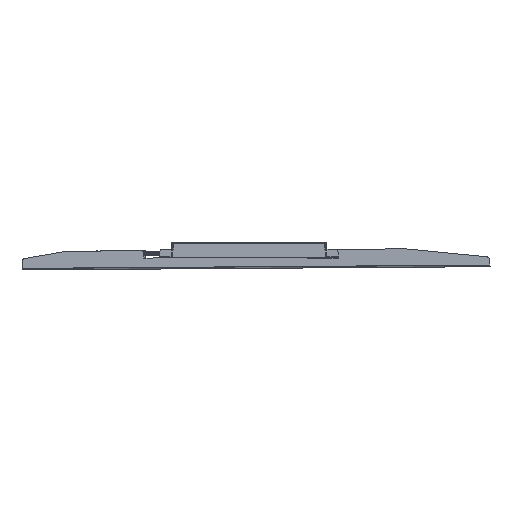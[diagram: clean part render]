
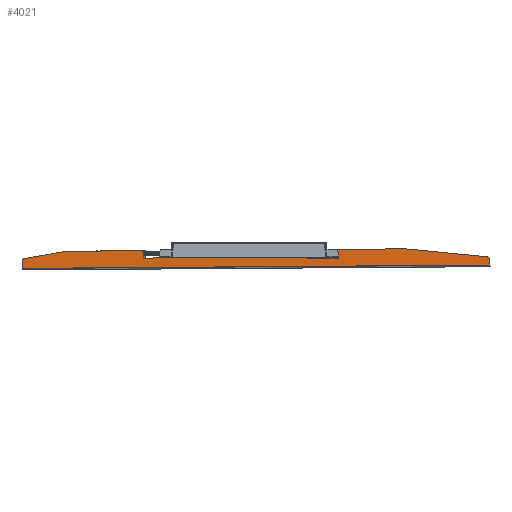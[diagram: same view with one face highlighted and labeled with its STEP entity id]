
A CAD part, left-side view. The second image highlights one B-rep face of the part: STEP entity #4021.
In plain terms, the highlighted planar face has unit normal (-1, 0, 0).
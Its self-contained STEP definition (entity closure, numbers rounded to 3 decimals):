
#1253=DIRECTION('',(0.,1.,0.));
#1254=VECTOR('',#1253,168.476);
#1255=CARTESIAN_POINT('',(1053.71,-81.796,-17.5));
#1256=LINE('',#1255,#1254);
#1265=CARTESIAN_POINT('',(1053.714,86.68,-20.5));
#1266=DIRECTION('',(1.,0.,0.));
#1267=DIRECTION('',(0.,1.,0.));
#1268=AXIS2_PLACEMENT_3D('',#1265,#1266,#1267);
#1270=CARTESIAN_POINT('',(1053.71,-81.796,-20.5));
#1271=DIRECTION('',(1.,0.,0.));
#1272=DIRECTION('',(0.,0.,1.));
#1273=AXIS2_PLACEMENT_3D('',#1270,#1271,#1272);
#1275=DIRECTION('',(0.,-0.707,-0.707));
#1276=VECTOR('',#1275,9.864);
#1277=CARTESIAN_POINT('',(1053.71,-83.917,
-18.379));
#1278=LINE('',#1277,#1276);
#1279=CARTESIAN_POINT('',(1053.71,-91.245,-25.));
#1280=DIRECTION('',(-1.,0.,0.));
#1281=DIRECTION('',(0.,0.707,-0.707));
#1282=AXIS2_PLACEMENT_3D('',#1279,#1280,#1281);
#1284=DIRECTION('',(0.,0.985,0.174));
#1285=VECTOR('',#1284,12.96);
#1286=CARTESIAN_POINT('',(1053.708,-131.92,
-23.096));
#1287=LINE('',#1286,#1285);
#1288=CARTESIAN_POINT('',(1053.709,-119.33,
-19.861));
#1289=DIRECTION('',(1.,0.,0.));
#1290=DIRECTION('',(0.,0.174,-0.985));
#1291=AXIS2_PLACEMENT_3D('',#1288,#1289,#1290);
#1293=DIRECTION('',(0.,0.,1.));
#1294=VECTOR('',#1293,5.861);
#1295=CARTESIAN_POINT('',(1053.709,-118.33,
-19.861));
#1296=LINE('',#1295,#1294);
#1297=CARTESIAN_POINT('',(1053.709,-118.83,-14.));
#1298=DIRECTION('',(1.,0.,0.));
#1299=DIRECTION('',(0.,1.,0.));
#1300=AXIS2_PLACEMENT_3D('',#1297,#1298,#1299);
#1302=DIRECTION('',(0.,-1.,0.));
#1303=VECTOR('',#1302,104.555);
#1304=CARTESIAN_POINT('',(1053.709,-118.83,-13.5));
#1305=LINE('',#1304,#1303);
#1306=CARTESIAN_POINT('',(1053.706,-223.385,-18.5));
#1307=DIRECTION('',(1.,0.,0.));
#1308=DIRECTION('',(0.,0.,1.));
#1309=AXIS2_PLACEMENT_3D('',#1306,#1307,#1308);
#1311=DIRECTION('',(0.,-0.995,-0.105));
#1312=VECTOR('',#1311,110.037);
#1313=CARTESIAN_POINT('',(1053.706,-223.908,
-13.527));
#1314=LINE('',#1313,#1312);
#1315=CARTESIAN_POINT('',(1053.703,-332.82,
-30.002));
#1316=DIRECTION('',(1.,0.,0.));
#1317=DIRECTION('',(0.,-0.105,0.995));
#1318=AXIS2_PLACEMENT_3D('',#1315,#1316,#1317);
#1320=DIRECTION('',(0.,0.,-1.));
#1321=VECTOR('',#1320,6.298);
#1322=CARTESIAN_POINT('',(1053.703,-337.82,
-30.002));
#1323=LINE('',#1322,#1321);
#1324=DIRECTION('',(0.,0.,1.));
#1325=VECTOR('',#1324,8.564);
#1326=CARTESIAN_POINT('',(1053.72,297.18,-36.3));
#1327=LINE('',#1326,#1325);
#1328=CARTESIAN_POINT('',(1053.72,292.18,-27.736));
#1329=DIRECTION('',(1.,0.,0.));
#1330=DIRECTION('',(0.,1.,0.));
#1331=AXIS2_PLACEMENT_3D('',#1328,#1329,#1330);
#1333=DIRECTION('',(0.,-0.986,0.164));
#1334=VECTOR('',#1333,56.592);
#1335=CARTESIAN_POINT('',(1053.72,293.002,-22.804));
#1336=LINE('',#1335,#1334);
#1337=DIRECTION('',(0.,-1.,0.));
#1338=VECTOR('',#1337,100.5);
#1339=CARTESIAN_POINT('',(1053.718,237.18,-13.5));
#1340=LINE('',#1339,#1338);
#1341=CARTESIAN_POINT('',(1053.716,136.68,-18.5));
#1342=DIRECTION('',(1.,0.,0.));
#1343=DIRECTION('',(0.,0.,1.));
#1344=AXIS2_PLACEMENT_3D('',#1341,#1342,#1343);
#1346=DIRECTION('',(0.,0.,-1.));
#1347=VECTOR('',#1346,5.);
#1348=CARTESIAN_POINT('',(1053.715,131.68,-18.5));
#1349=LINE('',#1348,#1347);
#1350=DIRECTION('',(0.,-1.,0.));
#1351=VECTOR('',#1350,42.);
#1352=CARTESIAN_POINT('',(1053.715,131.68,-23.5));
#1353=LINE('',#1352,#1351);
#1354=DIRECTION('',(0.,0.,1.));
#1355=VECTOR('',#1354,3.);
#1356=CARTESIAN_POINT('',(1053.714,89.68,-23.5));
#1357=LINE('',#1356,#1355);
#1374=DIRECTION('',(0.,1.,0.));
#1375=VECTOR('',#1374,40.674);
#1376=CARTESIAN_POINT('',(1053.708,-131.92,-25.5));
#1377=LINE('',#1376,#1375);
#1386=DIRECTION('',(0.,0.,-1.));
#1387=VECTOR('',#1386,2.404);
#1388=CARTESIAN_POINT('',(1053.708,-131.92,
-23.096));
#1389=LINE('',#1388,#1387);
#1426=DIRECTION('',(0.,-1.,0.));
#1427=VECTOR('',#1426,635.);
#1428=CARTESIAN_POINT('',(1053.72,297.18,-36.3));
#1429=LINE('',#1428,#1427);
#1934=CARTESIAN_POINT('',(1053.703,-337.82,
-36.3));
#1935=VERTEX_POINT('',#1934);
#1936=CARTESIAN_POINT('',(1053.703,-337.82,
-30.002));
#1937=VERTEX_POINT('',#1936);
#2146=CARTESIAN_POINT('',(1053.72,297.18,-27.736));
#2147=VERTEX_POINT('',#2146);
#2148=CARTESIAN_POINT('',(1053.72,297.18,-36.3));
#2149=VERTEX_POINT('',#2148);
#2300=CARTESIAN_POINT('',(1053.714,86.68,-17.5));
#2301=VERTEX_POINT('',#2300);
#2302=CARTESIAN_POINT('',(1053.714,89.68,-20.5));
#2303=VERTEX_POINT('',#2302);
#2304=CARTESIAN_POINT('',(1053.71,-81.796,-17.5));
#2305=VERTEX_POINT('',#2304);
#2306=CARTESIAN_POINT('',(1053.71,-83.917,
-18.379));
#2307=VERTEX_POINT('',#2306);
#2308=CARTESIAN_POINT('',(1053.71,-90.892,
-25.354));
#2309=VERTEX_POINT('',#2308);
#2310=CARTESIAN_POINT('',(1053.71,-91.245,-25.5));
#2311=VERTEX_POINT('',#2310);
#2312=CARTESIAN_POINT('',(1053.708,-131.92,-25.5));
#2313=VERTEX_POINT('',#2312);
#2314=CARTESIAN_POINT('',(1053.708,-131.92,
-23.096));
#2315=VERTEX_POINT('',#2314);
#2316=CARTESIAN_POINT('',(1053.709,-119.156,
-20.846));
#2317=VERTEX_POINT('',#2316);
#2318=CARTESIAN_POINT('',(1053.709,-118.33,
-19.861));
#2319=VERTEX_POINT('',#2318);
#2320=CARTESIAN_POINT('',(1053.709,-118.33,
-14.));
#2321=VERTEX_POINT('',#2320);
#2322=CARTESIAN_POINT('',(1053.709,-118.83,-13.5));
#2323=VERTEX_POINT('',#2322);
#2324=CARTESIAN_POINT('',(1053.706,-223.385,-13.5));
#2325=VERTEX_POINT('',#2324);
#2326=CARTESIAN_POINT('',(1053.706,-223.908,
-13.527));
#2327=VERTEX_POINT('',#2326);
#2328=CARTESIAN_POINT('',(1053.703,-333.342,
-25.029));
#2329=VERTEX_POINT('',#2328);
#2330=CARTESIAN_POINT('',(1053.72,293.002,-22.804));
#2331=VERTEX_POINT('',#2330);
#2332=CARTESIAN_POINT('',(1053.718,237.18,-13.5));
#2333=VERTEX_POINT('',#2332);
#2334=CARTESIAN_POINT('',(1053.716,136.68,-13.5));
#2335=VERTEX_POINT('',#2334);
#2336=CARTESIAN_POINT('',(1053.715,131.68,-18.5));
#2337=VERTEX_POINT('',#2336);
#2338=CARTESIAN_POINT('',(1053.715,131.68,-23.5));
#2339=VERTEX_POINT('',#2338);
#2340=CARTESIAN_POINT('',(1053.714,89.68,-23.5));
#2341=VERTEX_POINT('',#2340);
#3969=CARTESIAN_POINT('',(1053.72,297.18,-36.3));
#3970=DIRECTION('',(1.,0.,0.));
#3971=DIRECTION('',(0.,0.,1.));
#3972=AXIS2_PLACEMENT_3D('',#3969,#3970,#3971);
#3973=PLANE('',#3972);
#3974=ORIENTED_EDGE('',*,*,#3913,.T.);
#3975=ORIENTED_EDGE('',*,*,#3936,.F.);
#3976=ORIENTED_EDGE('',*,*,#3953,.T.);
#3978=ORIENTED_EDGE('',*,*,#3977,.T.);
#3980=ORIENTED_EDGE('',*,*,#3979,.T.);
#3982=ORIENTED_EDGE('',*,*,#3981,.F.);
#3984=ORIENTED_EDGE('',*,*,#3983,.F.);
#3986=ORIENTED_EDGE('',*,*,#3985,.T.);
#3988=ORIENTED_EDGE('',*,*,#3987,.T.);
#3990=ORIENTED_EDGE('',*,*,#3989,.T.);
#3992=ORIENTED_EDGE('',*,*,#3991,.T.);
#3994=ORIENTED_EDGE('',*,*,#3993,.T.);
#3996=ORIENTED_EDGE('',*,*,#3995,.T.);
#3998=ORIENTED_EDGE('',*,*,#3997,.T.);
#4000=ORIENTED_EDGE('',*,*,#3999,.T.);
#4001=ORIENTED_EDGE('',*,*,#2554,.T.);
#4003=ORIENTED_EDGE('',*,*,#4002,.F.);
#4004=ORIENTED_EDGE('',*,*,#3610,.T.);
#4006=ORIENTED_EDGE('',*,*,#4005,.T.);
#4008=ORIENTED_EDGE('',*,*,#4007,.T.);
#4010=ORIENTED_EDGE('',*,*,#4009,.T.);
#4012=ORIENTED_EDGE('',*,*,#4011,.T.);
#4014=ORIENTED_EDGE('',*,*,#4013,.T.);
#4016=ORIENTED_EDGE('',*,*,#4015,.T.);
#4018=ORIENTED_EDGE('',*,*,#4017,.T.);
#4019=EDGE_LOOP('',(#3974,#3975,#3976,#3978,#3980,#3982,#3984,#3986,#3988,#3990,
#3992,#3994,#3996,#3998,#4000,#4001,#4003,#4004,#4006,#4008,#4010,#4012,#4014,
#4016,#4018));
#4020=FACE_OUTER_BOUND('',#4019,.F.);
#1269=CIRCLE('',#1268,3.);
#1274=CIRCLE('',#1273,3.);
#1283=CIRCLE('',#1282,0.5);
#1292=CIRCLE('',#1291,1.);
#1301=CIRCLE('',#1300,0.5);
#1310=CIRCLE('',#1309,5.);
#1319=CIRCLE('',#1318,5.);
#1332=CIRCLE('',#1331,5.);
#1345=CIRCLE('',#1344,5.);
#2554=EDGE_CURVE('',#1937,#1935,#1323,.T.);
#3610=EDGE_CURVE('',#2149,#2147,#1327,.T.);
#3913=EDGE_CURVE('',#2303,#2301,#1269,.T.);
#3936=EDGE_CURVE('',#2305,#2301,#1256,.T.);
#3953=EDGE_CURVE('',#2305,#2307,#1274,.T.);
#3977=EDGE_CURVE('',#2307,#2309,#1278,.T.);
#3979=EDGE_CURVE('',#2309,#2311,#1283,.T.);
#3981=EDGE_CURVE('',#2313,#2311,#1377,.T.);
#3983=EDGE_CURVE('',#2315,#2313,#1389,.T.);
#3985=EDGE_CURVE('',#2315,#2317,#1287,.T.);
#3987=EDGE_CURVE('',#2317,#2319,#1292,.T.);
#3989=EDGE_CURVE('',#2319,#2321,#1296,.T.);
#3991=EDGE_CURVE('',#2321,#2323,#1301,.T.);
#3993=EDGE_CURVE('',#2323,#2325,#1305,.T.);
#3995=EDGE_CURVE('',#2325,#2327,#1310,.T.);
#3997=EDGE_CURVE('',#2327,#2329,#1314,.T.);
#3999=EDGE_CURVE('',#2329,#1937,#1319,.T.);
#4002=EDGE_CURVE('',#2149,#1935,#1429,.T.);
#4005=EDGE_CURVE('',#2147,#2331,#1332,.T.);
#4007=EDGE_CURVE('',#2331,#2333,#1336,.T.);
#4009=EDGE_CURVE('',#2333,#2335,#1340,.T.);
#4011=EDGE_CURVE('',#2335,#2337,#1345,.T.);
#4013=EDGE_CURVE('',#2337,#2339,#1349,.T.);
#4015=EDGE_CURVE('',#2339,#2341,#1353,.T.);
#4017=EDGE_CURVE('',#2341,#2303,#1357,.T.);
#4021=ADVANCED_FACE('',(#4020),#3973,.F.);
